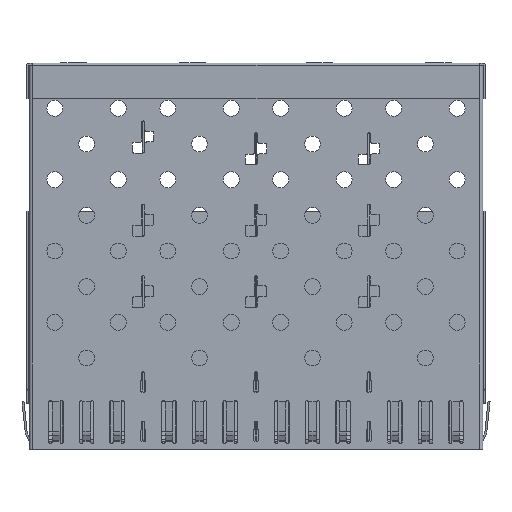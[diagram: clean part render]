
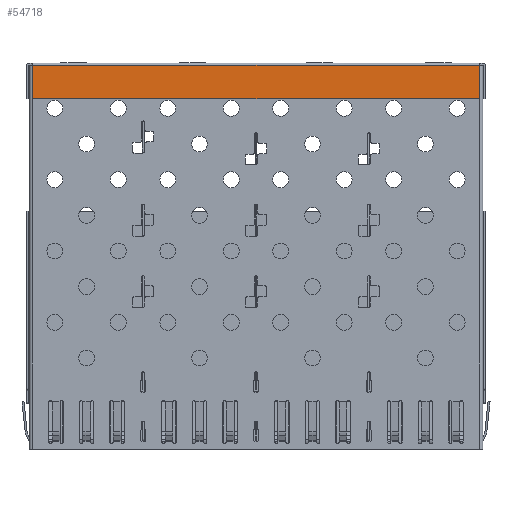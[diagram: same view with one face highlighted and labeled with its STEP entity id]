
A CAD part, top view. The second image highlights one B-rep face of the part: STEP entity #54718.
In plain terms, the highlighted planar face has unit normal (0, 0, 1).
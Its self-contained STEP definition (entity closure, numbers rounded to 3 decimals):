
#8767 = EDGE_CURVE ( 'NONE', #53493, #52791, #63323, .T. ) ;
#9979 = VECTOR ( 'NONE', #27690, 1000. ) ;
#10066 = PLANE ( 'NONE',  #27916 ) ;
#10533 = ORIENTED_EDGE ( 'NONE', *, *, #8767, .T. ) ;
#10716 = ORIENTED_EDGE ( 'NONE', *, *, #72415, .T. ) ;
#12613 = DIRECTION ( 'NONE',  ( 0., 1., 0. ) ) ;
#13507 = CARTESIAN_POINT ( 'NONE',  ( 28.175, 48.45, 0.3 ) ) ;
#18023 = CARTESIAN_POINT ( 'NONE',  ( 28.175, 48.45, 0.3 ) ) ;
#23049 = CARTESIAN_POINT ( 'NONE',  ( 28.175, 44.2, 0.3 ) ) ;
#23100 = VERTEX_POINT ( 'NONE', #51017 ) ;
#25061 = LINE ( 'NONE', #44637, #9979 ) ;
#25518 = LINE ( 'NONE', #18023, #38902 ) ;
#27147 = DIRECTION ( 'NONE',  ( 0., 1., 0. ) ) ;
#27690 = DIRECTION ( 'NONE',  ( 1., 0., 0. ) ) ;
#27916 = AXIS2_PLACEMENT_3D ( 'NONE', #38399, #61309, #27147 ) ;
#30696 = ORIENTED_EDGE ( 'NONE', *, *, #39389, .T. ) ;
#35209 = CARTESIAN_POINT ( 'NONE',  ( 28.175, 48.45, 0.3 ) ) ;
#38282 = VERTEX_POINT ( 'NONE', #56316 ) ;
#38399 = CARTESIAN_POINT ( 'NONE',  ( 0., 48.45, 0.3 ) ) ;
#38902 = VECTOR ( 'NONE', #57853, 1000. ) ;
#39389 = EDGE_CURVE ( 'NONE', #23100, #53493, #25061, .T. ) ;
#44637 = CARTESIAN_POINT ( 'NONE',  ( 28.175, 44.2, 0.3 ) ) ;
#49445 = EDGE_LOOP ( 'NONE', ( #10533, #10716, #69178, #30696 ) ) ;
#51017 = CARTESIAN_POINT ( 'NONE',  ( -28.175, 44.2, 0.3 ) ) ;
#52791 = VERTEX_POINT ( 'NONE', #13507 ) ;
#53493 = VERTEX_POINT ( 'NONE', #23049 ) ;
#54322 = CARTESIAN_POINT ( 'NONE',  ( -28.175, 44.2, 0.3 ) ) ;
#54718 = ADVANCED_FACE ( 'NONE', ( #70310 ), #10066, .F. ) ;
#56316 = CARTESIAN_POINT ( 'NONE',  ( -28.175, 48.45, 0.3 ) ) ;
#57853 = DIRECTION ( 'NONE',  ( -1., 0., 0. ) ) ;
#60023 = DIRECTION ( 'NONE',  ( 0., -1., 0. ) ) ;
#61309 = DIRECTION ( 'NONE',  ( 0., 0., -1. ) ) ;
#63323 = LINE ( 'NONE', #35209, #65129 ) ;
#65129 = VECTOR ( 'NONE', #12613, 1000. ) ;
#67381 = EDGE_CURVE ( 'NONE', #38282, #23100, #73966, .T. ) ;
#69178 = ORIENTED_EDGE ( 'NONE', *, *, #67381, .T. ) ;
#70310 = FACE_OUTER_BOUND ( 'NONE', #49445, .T. ) ;
#72175 = VECTOR ( 'NONE', #60023, 1000. ) ;
#72415 = EDGE_CURVE ( 'NONE', #52791, #38282, #25518, .T. ) ;
#73966 = LINE ( 'NONE', #54322, #72175 ) ;
